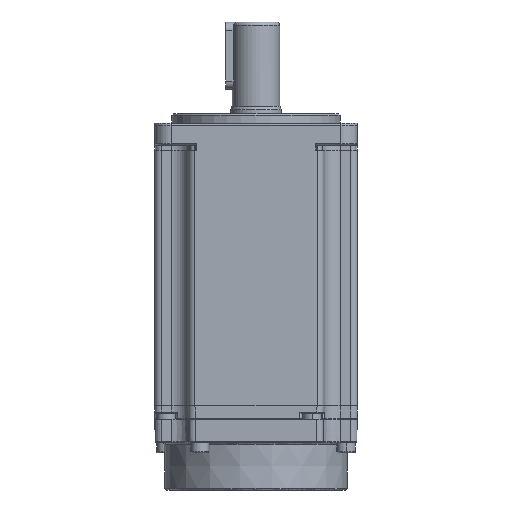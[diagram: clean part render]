
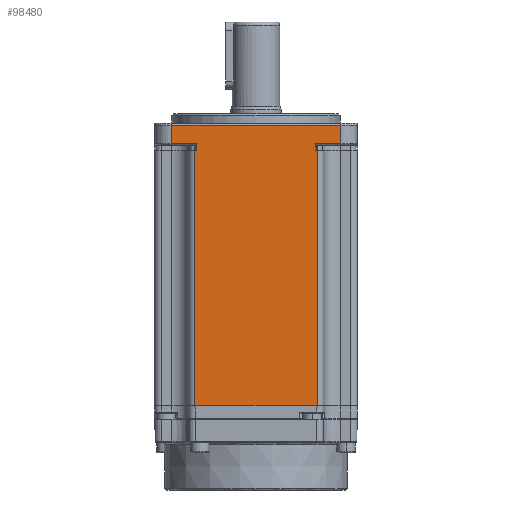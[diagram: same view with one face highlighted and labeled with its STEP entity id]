
A CAD part, front view. The second image highlights one B-rep face of the part: STEP entity #98480.
In plain terms, the highlighted planar face has unit normal (0, -1, 0).
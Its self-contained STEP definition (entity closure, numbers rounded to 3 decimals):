
#178 = VERTEX_POINT ( 'NONE', #70452 ) ;
#800 = CARTESIAN_POINT ( 'NONE',  ( 17.016, -39.646, 119.1 ) ) ;
#1100 = ORIENTED_EDGE ( 'NONE', *, *, #62472, .T. ) ;
#3066 = DIRECTION ( 'NONE',  ( 1., 0., 0. ) ) ;
#7793 = CARTESIAN_POINT ( 'NONE',  ( -17.984, -39.646, 110.7 ) ) ;
#10712 = DIRECTION ( 'NONE',  ( 0., 0., -1. ) ) ;
#11642 = CARTESIAN_POINT ( 'NONE',  ( 17.016, -39.646, 112.7 ) ) ;
#13183 = LINE ( 'NONE', #161414, #176281 ) ;
#17753 = CARTESIAN_POINT ( 'NONE',  ( -30.584, -39.646, 110.7 ) ) ;
#21003 = CARTESIAN_POINT ( 'NONE',  ( -18.584, -39.646, 34.9 ) ) ;
#23547 = ORIENTED_EDGE ( 'NONE', *, *, #120006, .T. ) ;
#27237 = VECTOR ( 'NONE', #200978, 1000. ) ;
#32239 = LINE ( 'NONE', #90634, #27237 ) ;
#37695 = VERTEX_POINT ( 'NONE', #179286 ) ;
#39760 = ORIENTED_EDGE ( 'NONE', *, *, #136596, .F. ) ;
#41259 = ORIENTED_EDGE ( 'NONE', *, *, #61482, .T. ) ;
#44622 = PLANE ( 'NONE',  #107718 ) ;
#48074 = CARTESIAN_POINT ( 'NONE',  ( -25.584, -39.646, 112.7 ) ) ;
#51723 = LINE ( 'NONE', #175344, #130853 ) ;
#53612 = DIRECTION ( 'NONE',  ( -1., 0., 0. ) ) ;
#60475 = CARTESIAN_POINT ( 'NONE',  ( -30.584, -39.646, 119.1 ) ) ;
#61482 = EDGE_CURVE ( 'NONE', #121677, #177928, #115932, .T. ) ;
#62472 = EDGE_CURVE ( 'NONE', #153581, #121677, #187432, .T. ) ;
#65857 = ORIENTED_EDGE ( 'NONE', *, *, #75689, .T. ) ;
#69994 = VERTEX_POINT ( 'NONE', #132542 ) ;
#70452 = CARTESIAN_POINT ( 'NONE',  ( -18.584, -39.646, 110.7 ) ) ;
#73802 = CARTESIAN_POINT ( 'NONE',  ( -17.984, -39.646, 112.7 ) ) ;
#73884 = EDGE_CURVE ( 'NONE', #177928, #158404, #13183, .T. ) ;
#75689 = EDGE_CURVE ( 'NONE', #158404, #178, #153364, .T. ) ;
#76370 = DIRECTION ( 'NONE',  ( -1., 0., 0. ) ) ;
#77236 = DIRECTION ( 'NONE',  ( 0., 0., 1. ) ) ;
#77909 = CARTESIAN_POINT ( 'NONE',  ( 24.616, -39.646, 119.1 ) ) ;
#80339 = EDGE_CURVE ( 'NONE', #87051, #37695, #141699, .T. ) ;
#81644 = ORIENTED_EDGE ( 'NONE', *, *, #157550, .T. ) ;
#81907 = CARTESIAN_POINT ( 'NONE',  ( 24.616, -39.646, 112.7 ) ) ;
#85433 = CARTESIAN_POINT ( 'NONE',  ( -30.584, -39.646, 110.7 ) ) ;
#87051 = VERTEX_POINT ( 'NONE', #178957 ) ;
#90447 = FACE_OUTER_BOUND ( 'NONE', #143195, .T. ) ;
#90634 = CARTESIAN_POINT ( 'NONE',  ( -30.584, -39.646, 34.9 ) ) ;
#92179 = VECTOR ( 'NONE', #10712, 1000. ) ;
#96419 = ORIENTED_EDGE ( 'NONE', *, *, #169851, .T. ) ;
#97136 = LINE ( 'NONE', #137129, #92179 ) ;
#98480 = ADVANCED_FACE ( 'NONE', ( #90447 ), #44622, .F. ) ;
#99499 = LINE ( 'NONE', #81907, #104446 ) ;
#101426 = ORIENTED_EDGE ( 'NONE', *, *, #73884, .T. ) ;
#103671 = ORIENTED_EDGE ( 'NONE', *, *, #203672, .T. ) ;
#104446 = VECTOR ( 'NONE', #3066, 1000. ) ;
#104816 = DIRECTION ( 'NONE',  ( 0., 0., -1. ) ) ;
#105745 = LINE ( 'NONE', #202240, #142781 ) ;
#106602 = CARTESIAN_POINT ( 'NONE',  ( 17.616, -39.646, 34.9 ) ) ;
#107718 = AXIS2_PLACEMENT_3D ( 'NONE', #60475, #171009, #76370 ) ;
#108382 = LINE ( 'NONE', #800, #182370 ) ;
#109477 = VERTEX_POINT ( 'NONE', #141639 ) ;
#109648 = LINE ( 'NONE', #77909, #188557 ) ;
#114250 = EDGE_CURVE ( 'NONE', #37695, #119312, #108382, .T. ) ;
#115932 = LINE ( 'NONE', #204506, #199850 ) ;
#119312 = VERTEX_POINT ( 'NONE', #11642 ) ;
#119894 = EDGE_CURVE ( 'NONE', #178, #133190, #97136, .T. ) ;
#120006 = EDGE_CURVE ( 'NONE', #119312, #69994, #99499, .T. ) ;
#120690 = CARTESIAN_POINT ( 'NONE',  ( -25.584, -39.646, 119.1 ) ) ;
#121677 = VERTEX_POINT ( 'NONE', #48074 ) ;
#127263 = DIRECTION ( 'NONE',  ( 0., 0., 1. ) ) ;
#128957 = DIRECTION ( 'NONE',  ( -1., 0., 0. ) ) ;
#130853 = VECTOR ( 'NONE', #191108, 1000. ) ;
#132542 = CARTESIAN_POINT ( 'NONE',  ( 24.616, -39.646, 112.7 ) ) ;
#133190 = VERTEX_POINT ( 'NONE', #21003 ) ;
#133399 = VERTEX_POINT ( 'NONE', #106602 ) ;
#136596 = EDGE_CURVE ( 'NONE', #133399, #133190, #32239, .T. ) ;
#137129 = CARTESIAN_POINT ( 'NONE',  ( -18.584, -39.646, 119.1 ) ) ;
#140872 = ORIENTED_EDGE ( 'NONE', *, *, #114250, .T. ) ;
#141639 = CARTESIAN_POINT ( 'NONE',  ( 24.616, -39.646, 118.1 ) ) ;
#141699 = LINE ( 'NONE', #17753, #178676 ) ;
#142781 = VECTOR ( 'NONE', #170630, 1000. ) ;
#143195 = EDGE_LOOP ( 'NONE', ( #39760, #96419, #195172, #140872, #23547, #81644, #103671, #1100, #41259, #101426, #65857, #168859 ) ) ;
#153364 = LINE ( 'NONE', #85433, #195233 ) ;
#153581 = VERTEX_POINT ( 'NONE', #179266 ) ;
#157024 = DIRECTION ( 'NONE',  ( 1., 0., 0. ) ) ;
#157550 = EDGE_CURVE ( 'NONE', #69994, #109477, #109648, .T. ) ;
#158404 = VERTEX_POINT ( 'NONE', #7793 ) ;
#161414 = CARTESIAN_POINT ( 'NONE',  ( -17.984, -39.646, 119.1 ) ) ;
#168859 = ORIENTED_EDGE ( 'NONE', *, *, #119894, .T. ) ;
#169851 = EDGE_CURVE ( 'NONE', #133399, #87051, #51723, .T. ) ;
#170630 = DIRECTION ( 'NONE',  ( -1., 0., 0. ) ) ;
#171009 = DIRECTION ( 'NONE',  ( 0., 1., 0. ) ) ;
#175344 = CARTESIAN_POINT ( 'NONE',  ( 17.616, -39.646, 119.1 ) ) ;
#176281 = VECTOR ( 'NONE', #177231, 1000. ) ;
#177231 = DIRECTION ( 'NONE',  ( 0., 0., -1. ) ) ;
#177928 = VERTEX_POINT ( 'NONE', #73802 ) ;
#178676 = VECTOR ( 'NONE', #128957, 1000. ) ;
#178957 = CARTESIAN_POINT ( 'NONE',  ( 17.616, -39.646, 110.7 ) ) ;
#179266 = CARTESIAN_POINT ( 'NONE',  ( -25.584, -39.646, 118.1 ) ) ;
#179286 = CARTESIAN_POINT ( 'NONE',  ( 17.016, -39.646, 110.7 ) ) ;
#182370 = VECTOR ( 'NONE', #127263, 1000. ) ;
#182521 = VECTOR ( 'NONE', #104816, 1000. ) ;
#187432 = LINE ( 'NONE', #120690, #182521 ) ;
#188557 = VECTOR ( 'NONE', #77236, 1000. ) ;
#191108 = DIRECTION ( 'NONE',  ( 0., 0., 1. ) ) ;
#195172 = ORIENTED_EDGE ( 'NONE', *, *, #80339, .T. ) ;
#195233 = VECTOR ( 'NONE', #53612, 1000. ) ;
#199850 = VECTOR ( 'NONE', #157024, 1000. ) ;
#200978 = DIRECTION ( 'NONE',  ( -1., 0., 0. ) ) ;
#202240 = CARTESIAN_POINT ( 'NONE',  ( -30.584, -39.646, 118.1 ) ) ;
#203672 = EDGE_CURVE ( 'NONE', #109477, #153581, #105745, .T. ) ;
#204506 = CARTESIAN_POINT ( 'NONE',  ( -17.984, -39.646, 112.7 ) ) ;
